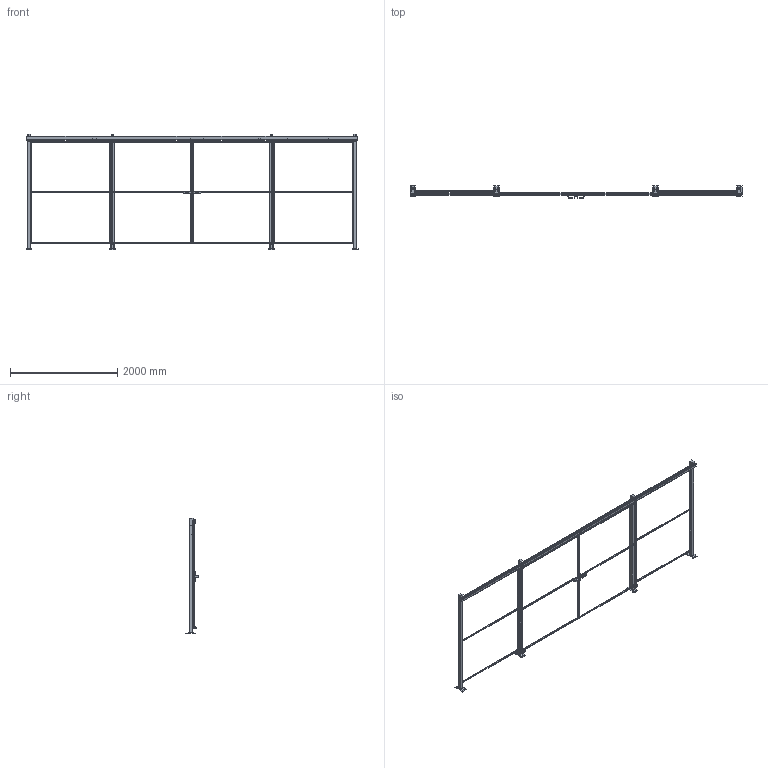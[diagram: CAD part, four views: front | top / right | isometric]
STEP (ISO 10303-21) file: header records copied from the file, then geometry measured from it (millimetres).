
FILE_DESCRIPTION(/* description */ (''),/* implementation_level */ '2;1');
FILE_NAME(/* name */ 'C:\SafeGuarding\ELABORATI\HOR§VED_2025-03-27-09-25-50.stp',/* time_stamp */ '2025-03-27T09:25:56+01:00',/* author */ ('admin'),/* organization */ (''),/* preprocessor_version */ 'ST-DEVELOPER v18.1',/* originating_system */ 'AutoCAD Mechanical',/* authorisation */ '');
FILE_SCHEMA (('AUTOMOTIVE_DESIGN { 1 0 10303 214 3 1 1 }'));
Length unit declared in the file: millimetre
Products named in the file (3): Product; R_VFPA.REPE20.15001900; P_VFMA.V360SDU.2020
Assembly tree (8 placements, depth 2):
  Product
    R_VFPA.REPE20.15001900  x4
    P_VFMA.V360SDU.2020  x4
Bounding box: 6180 x 235.9 x 2154 mm (x, y, z)
Volume: 55804468.7 mm3; surface area: 8418307.2 mm2
Topology: 57 solids, 79 shells, 660 faces, 2276 edges, 2388 vertices
Faces by surface type: plane 606, cylinder 54
Full cylindrical faces by diameter (mm): 11 x16, 12 x4, 14 x4, 15 x8, 40 x8
Entity records: 16888 total; most frequent: CARTESIAN_POINT 3575, ORIENTED_EDGE 2532, DIRECTION 2510, EDGE_CURVE 1364, LINE 1216, VECTOR 1216, VERTEX_POINT 992, AXIS2_PLACEMENT_3D 647
